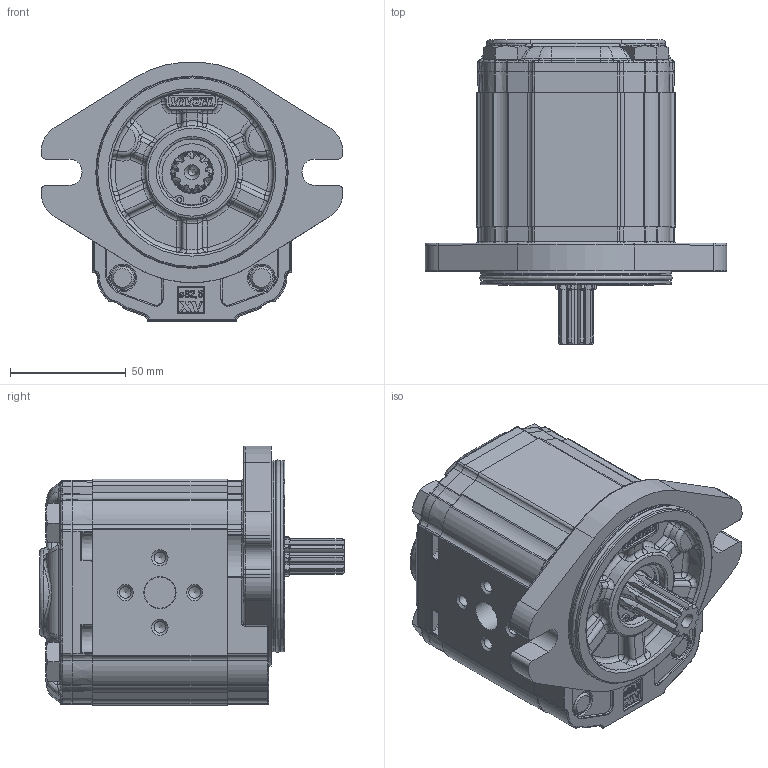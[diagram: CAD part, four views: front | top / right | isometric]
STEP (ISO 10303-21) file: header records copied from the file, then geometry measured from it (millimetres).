
FILE_DESCRIPTION(/* description */ ('Unknown'),/* implementation_level */ '2;1');
FILE_NAME(/* name */ 'X2U4751IOOA',/* time_stamp */ '2021-04-26T09:03:40+02:00',/* author */ ('Unknown'),/* organization */ ('Unknown'),/* preprocessor_version */ 'ST-DEVELOPER v16.7',/* originating_system */ 'Solid Edge',/* authorisation */ 'Unknown');
FILE_SCHEMA (('AUTOMOTIVE_DESIGN {1 0 10303 214 3 1 1}'));
Products named in the file (5): X2U4751IOOA; X2U51; 2I; X2OOH58; XU219-A
Assembly tree (4 placements, depth 2):
  X2U4751IOOA
    X2U51
    2I
    X2OOH58
    XU219-A
Bounding box: 130.38 x 131.7 x 112.3 mm (x, y, z)
Volume: 740576.7 mm3; surface area: 115622.7 mm2
Topology: 4 solids, 5 shells, 2230 faces, 5510 edges, 3347 vertices
Faces by surface type: cylinder 660, plane 592, bspline 537, torus 286, cone 117, sphere 38
Full cylindrical faces by diameter (mm): 2 x2, 4.917 x4, 5 x4, 10 x4, 10.5 x4, 11 x2, 11.5 x4, 13.5 x2, 16 x4, 17.42 x1, 18 x1, 20.595 x1, 23.332 x1, 25.834 x1, 28.5 x1, 28.56 x1, 28.57 x1, 28.8 x1, 30.4 x1, 79.6 x2, 82.5 x2
Entity records: 93009 total; most frequent: CARTESIAN_POINT 30285, ORIENTED_EDGE 10556, DIRECTION 8965, EDGE_CURVE 5278, AXIS2_PLACEMENT_3D 3437, VERTEX_POINT 3273, FACE_BOUND 2461, EDGE_LOOP 2452
